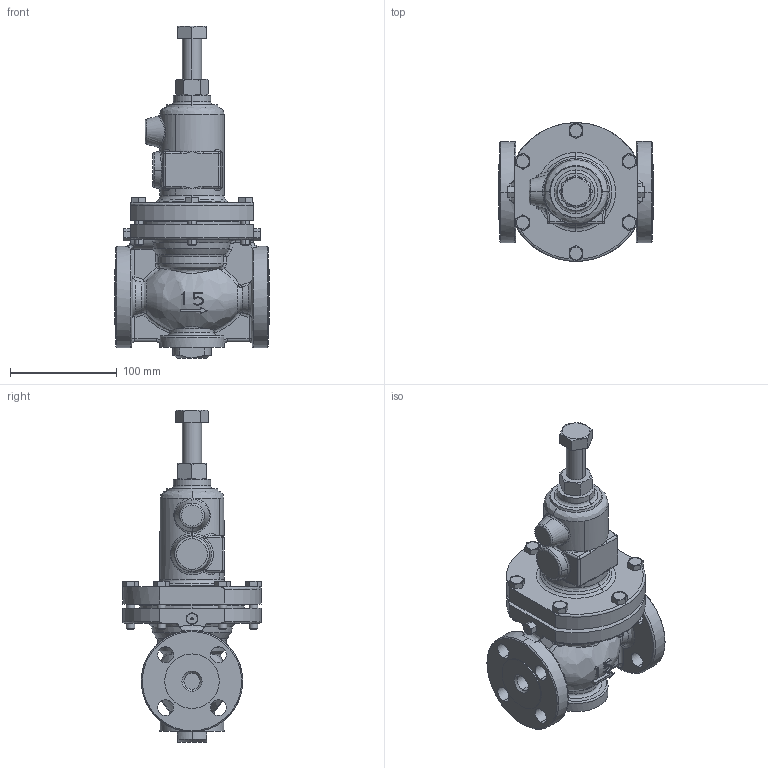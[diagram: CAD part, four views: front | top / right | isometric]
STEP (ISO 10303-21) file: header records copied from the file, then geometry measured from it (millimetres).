
FILE_DESCRIPTION( (''), '2;1');
FILE_NAME ('PC1276.5492.GD-200H 15A_9694.stp','2026-01-15T15:35:03',(''),(''),'spGate 20.6.3 (****-****-****-****)','','');
FILE_SCHEMA (('AUTOMOTIVE_DESIGN'));
Length unit declared in the file: millimetre
Products named in the file (4): Assembly; GD-200(15A)本体P; GD200保護筒15A25A; GD-200(15A)_M1
Assembly tree (3 placements, depth 2):
  Assembly
    GD-200(15A)本体P
    GD200保護筒15A25A
    GD-200(15A)_M1
Bounding box: 145 x 130.01 x 311.11 mm (x, y, z)
Volume: 1322948.7 mm3; surface area: 171030.2 mm2
Topology: 3 solids, 3 shells, 499 faces, 1268 edges, 794 vertices
Faces by surface type: bspline 197, plane 159, cylinder 136, sphere 7
Entity records: 44009 total; most frequent: CARTESIAN_POINT 23666, ORIENTED_EDGE 2516, DIRECTION 1762, COLOUR_RGB 1760, PRESENTATION_STYLE_ASSIGNMENT 1760, STYLED_ITEM 1760, EDGE_CURVE 1258, DRAUGHTING_PRE_DEFINED_CURVE_FONT 1258
